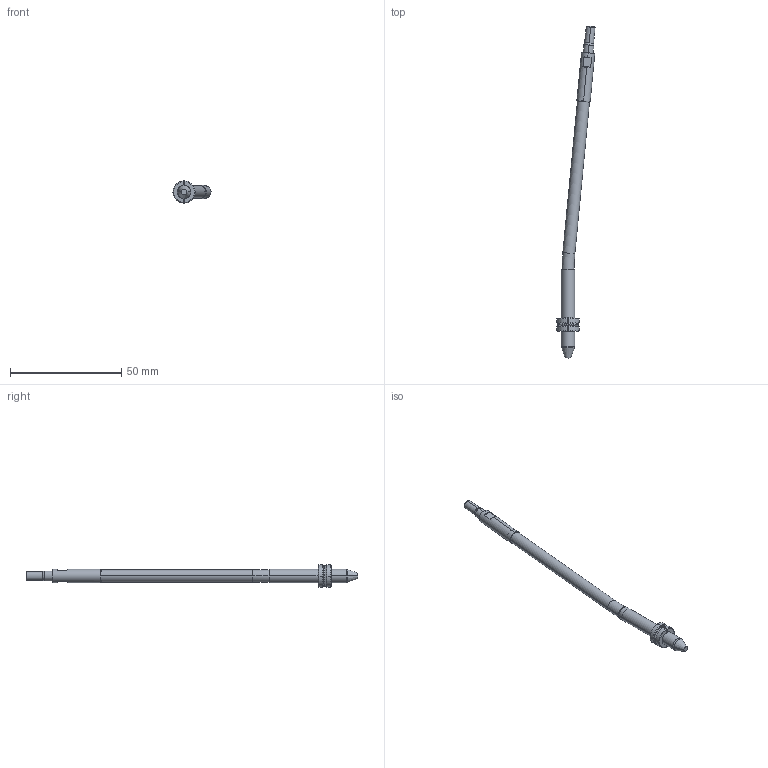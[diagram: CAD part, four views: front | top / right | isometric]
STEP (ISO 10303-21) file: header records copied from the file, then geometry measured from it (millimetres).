
FILE_DESCRIPTION (( 'STEP AP214' ), '1' );
FILE_NAME ('WP060060-EJE 5,5°.STEP', '2021-03-19T15:16:21', ( '' ), ( '' ), 'SwSTEP 2.0', 'SolidWorks 2019', '' );
FILE_SCHEMA (( 'AUTOMOTIVE_DESIGN' ));
Length unit declared in the file: millimetre
Products named in the file (6): WEB-006-9WP060030-6; WEB-007-9WP060060-F_WP060060-F-ON 5,5ø; WEB-001-9WP060030-1; WEB-008-JUNTA-JT7X1X9; WP060060-EJE 5,5°; WEB-002-9WP060030-2
Assembly tree (5 placements, depth 2):
  WP060060-EJE 5,5°
    WEB-001-9WP060030-1
    WEB-007-9WP060060-F_WP060060-F-ON 5,5ø
    WEB-002-9WP060030-2
    WEB-006-9WP060030-6
    WEB-008-JUNTA-JT7X1X9
Bounding box: 17.16 x 149.47 x 9.99 mm (x, y, z)
Volume: 3873.8 mm3; surface area: 3434.2 mm2
Topology: 6 solids, 6 shells, 112 faces, 260 edges, 162 vertices
Faces by surface type: cylinder 36, cone 28, plane 28, torus 20
Entity records: 3703 total; most frequent: CARTESIAN_POINT 710, DIRECTION 594, ORIENTED_EDGE 520, EDGE_CURVE 260, AXIS2_PLACEMENT_3D 254, VERTEX_POINT 162, CIRCLE 134, EDGE_LOOP 116
